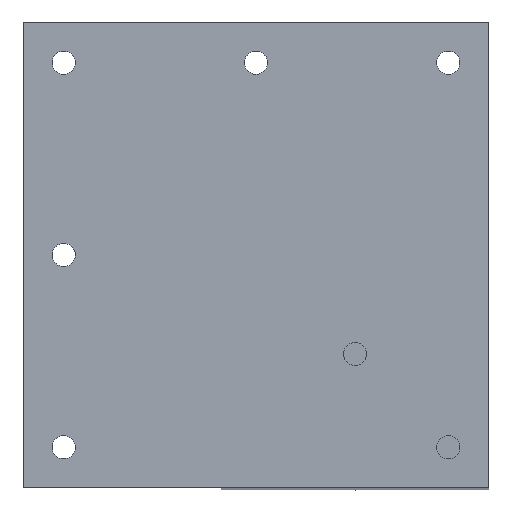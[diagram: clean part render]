
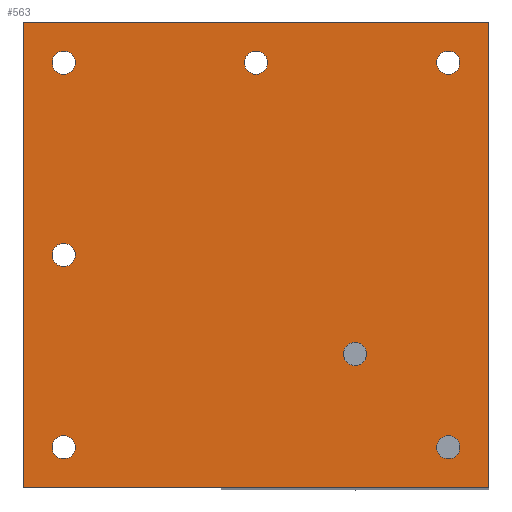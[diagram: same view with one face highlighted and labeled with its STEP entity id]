
A CAD part, top view. The second image highlights one B-rep face of the part: STEP entity #563.
In plain terms, the highlighted planar face has unit normal (0, 0, 1).
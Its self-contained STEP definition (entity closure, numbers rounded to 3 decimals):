
#253 = VERTEX_POINT( '', #727 );
#257 = EDGE_CURVE( '', #617, #271, #733, .T. );
#271 = VERTEX_POINT( '', #753 );
#295 = EDGE_CURVE( '', #375, #253, #779, .T. );
#301 = VERTEX_POINT( '', #786 );
#309 = EDGE_CURVE( '', #313, #603, #795, .T. );
#313 = VERTEX_POINT( '', #799 );
#319 = EDGE_CURVE( '', #599, #673, #805, .T. );
#323 = EDGE_CURVE( '', #511, #367, #809, .T. );
#333 = EDGE_CURVE( '', #591, #447, #819, .T. );
#335 = EDGE_CURVE( '', #419, #683, #821, .T. );
#351 = EDGE_CURVE( '', #391, #301, #841, .T. );
#363 = EDGE_CURVE( '', #271, #313, #856, .T. );
#365 = VERTEX_POINT( '', #858 );
#367 = VERTEX_POINT( '', #860 );
#369 = EDGE_CURVE( '', #253, #375, #862, .T. );
#373 = VERTEX_POINT( '', #867 );
#375 = VERTEX_POINT( '', #869 );
#381 = EDGE_CURVE( '', #683, #419, #875, .T. );
#391 = VERTEX_POINT( '', #885 );
#405 = EDGE_CURVE( '', #673, #599, #901, .T. );
#409 = EDGE_CURVE( '', #447, #591, #905, .T. );
#419 = VERTEX_POINT( '', #917 );
#447 = VERTEX_POINT( '', #946 );
#495 = EDGE_CURVE( '', #367, #511, #1001, .T. );
#511 = VERTEX_POINT( '', #1017 );
#535 = EDGE_CURVE( '', #373, #365, #1043, .T. );
#563 = ADVANCED_FACE( '', ( #1075, #1076, #1077, #1078, #1079, #1080, #1081, #1082 ), #1083, .T. );
#581 = EDGE_CURVE( '', #301, #391, #1101, .T. );
#591 = VERTEX_POINT( '', #1113 );
#597 = EDGE_CURVE( '', #603, #617, #1120, .T. );
#599 = VERTEX_POINT( '', #1122 );
#603 = VERTEX_POINT( '', #1126 );
#617 = VERTEX_POINT( '', #1141 );
#673 = VERTEX_POINT( '', #1205 );
#683 = VERTEX_POINT( '', #1215 );
#703 = EDGE_CURVE( '', #365, #373, #1237, .T. );
#727 = CARTESIAN_POINT( '', ( -35., -33., 0. ) );
#733 = LINE( '', #1259, #1260 );
#753 = CARTESIAN_POINT( '', ( -40., 40., 0. ) );
#779 = CIRCLE( '', #1319, 2. );
#786 = CARTESIAN_POINT( '', ( -31., 0., 0. ) );
#795 = LINE( '', #1338, #1339 );
#799 = CARTESIAN_POINT( '', ( -40., -40., 0. ) );
#805 = CIRCLE( '', #1355, 2. );
#809 = CIRCLE( '', #1361, 2. );
#819 = CIRCLE( '', #1377, 2. );
#821 = CIRCLE( '', #1380, 2. );
#841 = CIRCLE( '', #1404, 2. );
#856 = LINE( '', #1425, #1426 );
#858 = CARTESIAN_POINT( '', ( 19., -17., 0. ) );
#860 = CARTESIAN_POINT( '', ( 35., 33., 0. ) );
#862 = CIRCLE( '', #1433, 2. );
#867 = CARTESIAN_POINT( '', ( 15., -17., 0. ) );
#869 = CARTESIAN_POINT( '', ( -31., -33., 0. ) );
#875 = CIRCLE( '', #1448, 2. );
#885 = CARTESIAN_POINT( '', ( -35., 0., 0. ) );
#901 = CIRCLE( '', #1486, 2. );
#905 = CIRCLE( '', #1493, 2. );
#917 = CARTESIAN_POINT( '', ( -31., 33., 0. ) );
#946 = CARTESIAN_POINT( '', ( 2., 33., 0. ) );
#1001 = CIRCLE( '', #1626, 2. );
#1017 = CARTESIAN_POINT( '', ( 31., 33., 0. ) );
#1043 = CIRCLE( '', #1688, 2. );
#1075 = FACE_BOUND( '', #1730, .T. );
#1076 = FACE_OUTER_BOUND( '', #1731, .T. );
#1077 = FACE_BOUND( '', #1732, .T. );
#1078 = FACE_BOUND( '', #1733, .T. );
#1079 = FACE_BOUND( '', #1734, .T. );
#1080 = FACE_BOUND( '', #1735, .T. );
#1081 = FACE_BOUND( '', #1736, .T. );
#1082 = FACE_BOUND( '', #1737, .T. );
#1083 = PLANE( '', #1738 );
#1101 = CIRCLE( '', #1765, 2. );
#1113 = CARTESIAN_POINT( '', ( -2., 33., 0. ) );
#1120 = LINE( '', #1791, #1792 );
#1122 = CARTESIAN_POINT( '', ( 31., -33., 0. ) );
#1126 = CARTESIAN_POINT( '', ( 40., -40., 0. ) );
#1141 = CARTESIAN_POINT( '', ( 40., 40., 0. ) );
#1205 = CARTESIAN_POINT( '', ( 35., -33., 0. ) );
#1215 = CARTESIAN_POINT( '', ( -35., 33., 0. ) );
#1237 = CIRCLE( '', #1947, 2. );
#1259 = CARTESIAN_POINT( '', ( 40., 40., 0. ) );
#1260 = VECTOR( '', #1970, 1. );
#1319 = AXIS2_PLACEMENT_3D( '', #2020, #2021, #2022 );
#1338 = CARTESIAN_POINT( '', ( -40., -40., 0. ) );
#1339 = VECTOR( '', #2040, 1. );
#1355 = AXIS2_PLACEMENT_3D( '', #2046, #2047, #2048 );
#1361 = AXIS2_PLACEMENT_3D( '', #2052, #2053, #2054 );
#1377 = AXIS2_PLACEMENT_3D( '', #2060, #2061, #2062 );
#1380 = AXIS2_PLACEMENT_3D( '', #2063, #2064, #2065 );
#1404 = AXIS2_PLACEMENT_3D( '', #2105, #2106, #2107 );
#1425 = CARTESIAN_POINT( '', ( -40., 40., 0. ) );
#1426 = VECTOR( '', #2130, 1. );
#1433 = AXIS2_PLACEMENT_3D( '', #2131, #2132, #2133 );
#1448 = AXIS2_PLACEMENT_3D( '', #2146, #2147, #2148 );
#1486 = AXIS2_PLACEMENT_3D( '', #2177, #2178, #2179 );
#1493 = AXIS2_PLACEMENT_3D( '', #2181, #2182, #2183 );
#1626 = AXIS2_PLACEMENT_3D( '', #2286, #2287, #2288 );
#1688 = AXIS2_PLACEMENT_3D( '', #2317, #2318, #2319 );
#1730 = EDGE_LOOP( '', ( #2357, #2358 ) );
#1731 = EDGE_LOOP( '', ( #2359, #2360, #2361, #2362 ) );
#1732 = EDGE_LOOP( '', ( #2363, #2364 ) );
#1733 = EDGE_LOOP( '', ( #2365, #2366 ) );
#1734 = EDGE_LOOP( '', ( #2367, #2368 ) );
#1735 = EDGE_LOOP( '', ( #2369, #2370 ) );
#1736 = EDGE_LOOP( '', ( #2371, #2372 ) );
#1737 = EDGE_LOOP( '', ( #2373, #2374 ) );
#1738 = AXIS2_PLACEMENT_3D( '', #2375, #2376, #2377 );
#1765 = AXIS2_PLACEMENT_3D( '', #2382, #2383, #2384 );
#1791 = CARTESIAN_POINT( '', ( 40., -40., 0. ) );
#1792 = VECTOR( '', #2412, 1. );
#1947 = AXIS2_PLACEMENT_3D( '', #2528, #2529, #2530 );
#1970 = DIRECTION( '', ( -1., 0., 0. ) );
#2020 = CARTESIAN_POINT( '', ( -33., -33., 0. ) );
#2021 = DIRECTION( '', ( 0., 0., 1. ) );
#2022 = DIRECTION( '', ( 1., 0., 0. ) );
#2040 = DIRECTION( '', ( 1., 0., 0. ) );
#2046 = CARTESIAN_POINT( '', ( 33., -33., 0. ) );
#2047 = DIRECTION( '', ( 0., 0., 1. ) );
#2048 = DIRECTION( '', ( 1., 0., 0. ) );
#2052 = CARTESIAN_POINT( '', ( 33., 33., 0. ) );
#2053 = DIRECTION( '', ( 0., 0., 1. ) );
#2054 = DIRECTION( '', ( 1., 0., 0. ) );
#2060 = CARTESIAN_POINT( '', ( 0., 33., 0. ) );
#2061 = DIRECTION( '', ( 0., 0., 1. ) );
#2062 = DIRECTION( '', ( 1., 0., 0. ) );
#2063 = CARTESIAN_POINT( '', ( -33., 33., 0. ) );
#2064 = DIRECTION( '', ( 0., 0., 1. ) );
#2065 = DIRECTION( '', ( 1., 0., 0. ) );
#2105 = CARTESIAN_POINT( '', ( -33., 0., 0. ) );
#2106 = DIRECTION( '', ( 0., 0., 1. ) );
#2107 = DIRECTION( '', ( 1., 0., 0. ) );
#2130 = DIRECTION( '', ( 0., -1., 0. ) );
#2131 = CARTESIAN_POINT( '', ( -33., -33., 0. ) );
#2132 = DIRECTION( '', ( 0., 0., 1. ) );
#2133 = DIRECTION( '', ( 1., 0., 0. ) );
#2146 = CARTESIAN_POINT( '', ( -33., 33., 0. ) );
#2147 = DIRECTION( '', ( 0., 0., 1. ) );
#2148 = DIRECTION( '', ( 1., 0., 0. ) );
#2177 = CARTESIAN_POINT( '', ( 33., -33., 0. ) );
#2178 = DIRECTION( '', ( 0., 0., 1. ) );
#2179 = DIRECTION( '', ( 1., 0., 0. ) );
#2181 = CARTESIAN_POINT( '', ( 0., 33., 0. ) );
#2182 = DIRECTION( '', ( 0., 0., 1. ) );
#2183 = DIRECTION( '', ( 1., 0., 0. ) );
#2286 = CARTESIAN_POINT( '', ( 33., 33., 0. ) );
#2287 = DIRECTION( '', ( 0., 0., 1. ) );
#2288 = DIRECTION( '', ( 1., 0., 0. ) );
#2317 = CARTESIAN_POINT( '', ( 17., -17., 0. ) );
#2318 = DIRECTION( '', ( 0., 0., -1. ) );
#2319 = DIRECTION( '', ( 1., 0., 0. ) );
#2357 = ORIENTED_EDGE( '', *, *, #703, .T. );
#2358 = ORIENTED_EDGE( '', *, *, #535, .T. );
#2359 = ORIENTED_EDGE( '', *, *, #363, .T. );
#2360 = ORIENTED_EDGE( '', *, *, #309, .T. );
#2361 = ORIENTED_EDGE( '', *, *, #597, .T. );
#2362 = ORIENTED_EDGE( '', *, *, #257, .T. );
#2363 = ORIENTED_EDGE( '', *, *, #405, .F. );
#2364 = ORIENTED_EDGE( '', *, *, #319, .F. );
#2365 = ORIENTED_EDGE( '', *, *, #495, .F. );
#2366 = ORIENTED_EDGE( '', *, *, #323, .F. );
#2367 = ORIENTED_EDGE( '', *, *, #409, .F. );
#2368 = ORIENTED_EDGE( '', *, *, #333, .F. );
#2369 = ORIENTED_EDGE( '', *, *, #581, .F. );
#2370 = ORIENTED_EDGE( '', *, *, #351, .F. );
#2371 = ORIENTED_EDGE( '', *, *, #295, .F. );
#2372 = ORIENTED_EDGE( '', *, *, #369, .F. );
#2373 = ORIENTED_EDGE( '', *, *, #335, .F. );
#2374 = ORIENTED_EDGE( '', *, *, #381, .F. );
#2375 = CARTESIAN_POINT( '', ( 0., 0., 0. ) );
#2376 = DIRECTION( '', ( 0., 0., 1. ) );
#2377 = DIRECTION( '', ( 1., 0., 0. ) );
#2382 = CARTESIAN_POINT( '', ( -33., 0., 0. ) );
#2383 = DIRECTION( '', ( 0., 0., 1. ) );
#2384 = DIRECTION( '', ( 1., 0., 0. ) );
#2412 = DIRECTION( '', ( 0., 1., 0. ) );
#2528 = CARTESIAN_POINT( '', ( 17., -17., 0. ) );
#2529 = DIRECTION( '', ( 0., 0., -1. ) );
#2530 = DIRECTION( '', ( 1., 0., 0. ) );
